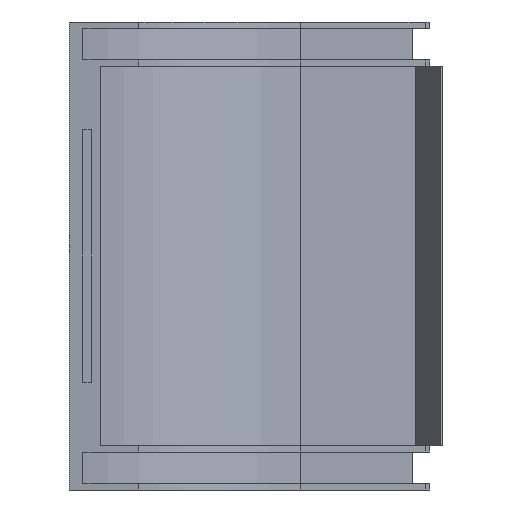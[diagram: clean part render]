
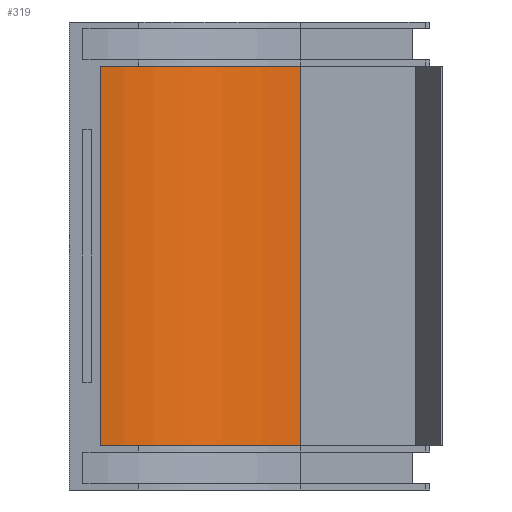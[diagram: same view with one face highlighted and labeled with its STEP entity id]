
A CAD part, front view. The second image highlights one B-rep face of the part: STEP entity #319.
In plain terms, the highlighted cylindrical face has radius 37.5 mm (diameter 75 mm), a partial arc.
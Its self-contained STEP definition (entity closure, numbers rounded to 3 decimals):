
#319=ADVANCED_FACE('',(#634),#636,.F.);
#634=FACE_BOUND('',#635,.T.);
#635=EDGE_LOOP('',(#900,#901,#902,#903));
#636=CYLINDRICAL_SURFACE('',#637,37.5);
#637=AXIS2_PLACEMENT_3D('',#638,#639,#640);
#638=CARTESIAN_POINT('',(-260.,97.073,7.));
#639=DIRECTION('',(-0.,-0.,-1.));
#640=DIRECTION('',(-1.,0.,0.));
#900=ORIENTED_EDGE('',*,*,#1056,.T.);
#901=ORIENTED_EDGE('',*,*,#978,.T.);
#902=ORIENTED_EDGE('',*,*,#985,.T.);
#903=ORIENTED_EDGE('',*,*,#974,.F.);
#974=EDGE_CURVE('',#1114,#1116,#1117,.T.);
#978=EDGE_CURVE('',#1124,#1122,#1125,.T.);
#985=EDGE_CURVE('',#1122,#1116,#1136,.T.);
#1056=EDGE_CURVE('',#1114,#1124,#1247,.F.);
#1114=VERTEX_POINT('',#1357);
#1116=VERTEX_POINT('',#1361);
#1117=CIRCLE('',#1362,37.5);
#1122=VERTEX_POINT('',#1374);
#1124=VERTEX_POINT('',#1378);
#1125=CIRCLE('',#1379,37.5);
#1136=LINE('',#1407,#1408);
#1247=LINE('',#1684,#1685);
#1357=CARTESIAN_POINT('',(-291.693,117.119,67.));
#1361=CARTESIAN_POINT('',(-260.,134.573,67.));
#1362=AXIS2_PLACEMENT_3D('',#1363,#1364,#1365);
#1363=CARTESIAN_POINT('',(-260.,97.073,67.));
#1364=DIRECTION('',(0.,0.,-1.));
#1365=DIRECTION('',(-0.845,0.535,0.));
#1374=CARTESIAN_POINT('',(-260.,134.573,7.));
#1378=CARTESIAN_POINT('',(-291.693,117.119,7.));
#1379=AXIS2_PLACEMENT_3D('',#1380,#1381,#1382);
#1380=CARTESIAN_POINT('',(-260.,97.073,7.));
#1381=DIRECTION('',(0.,0.,-1.));
#1382=DIRECTION('',(-0.845,0.535,0.));
#1407=CARTESIAN_POINT('',(-260.,134.573,7.));
#1408=VECTOR('',#1409,1.);
#1409=DIRECTION('',(0.,0.,1.));
#1684=CARTESIAN_POINT('',(-291.693,117.119,7.));
#1685=VECTOR('',#1686,1.);
#1686=DIRECTION('',(0.,0.,1.));
